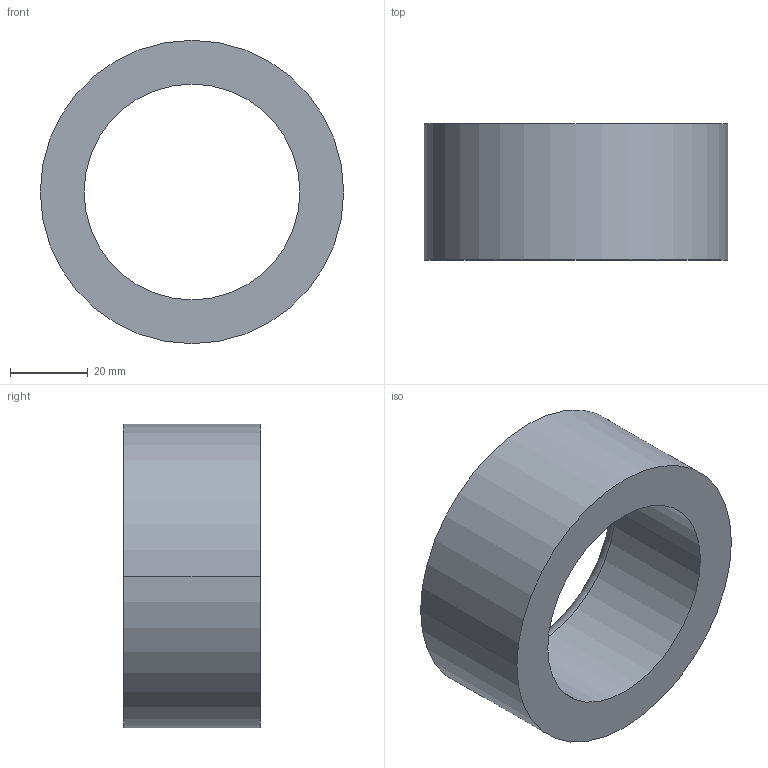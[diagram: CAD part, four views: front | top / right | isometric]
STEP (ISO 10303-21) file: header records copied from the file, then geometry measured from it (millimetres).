
FILE_DESCRIPTION (( 'STEP AP203' ), '1' );
FILE_NAME ('30800.WPP78M55.5.step', '2019-01-23T23:01:52', ( '' ), ( '' ), 'SwSTEP 2.0', 'SolidWorks 2017', '' );
FILE_SCHEMA (( 'CONFIG_CONTROL_DESIGN' ));
Length unit declared in the file: millimetre
Products named in the file (1): 30800.WPP78M55.5
Bounding box: 78 x 35 x 78 mm (x, y, z)
Volume: 81951.9 mm3; surface area: 19105.1 mm2
Topology: 1 solids, 1 shells, 8 faces, 16 edges, 10 vertices
Faces by surface type: cylinder 4, torus 2, plane 2
Entity records: 297 total; most frequent: DIRECTION 46, CARTESIAN_POINT 35, ORIENTED_EDGE 32, AXIS2_PLACEMENT_3D 21, EDGE_CURVE 16, CIRCLE 12, VERTEX_POINT 10, EDGE_LOOP 10
